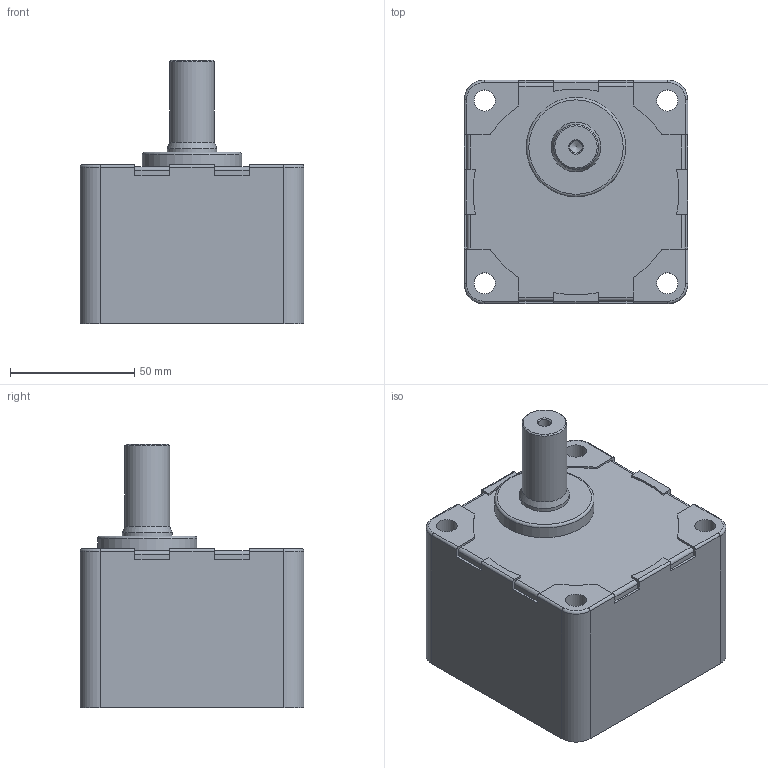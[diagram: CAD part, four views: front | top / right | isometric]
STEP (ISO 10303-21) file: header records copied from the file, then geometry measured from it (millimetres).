
FILE_DESCRIPTION(/* description */ (''),/* implementation_level */ '2;1');
FILE_NAME(/* name */ 'E:\도면작업\2016\0704) 미주향 SG 도면\3D GEAR HEAD\SG9SB120~300.stp',/* time_stamp */ '2016-07-22T14:05:38+09:00',/* author */ ('jy-jung'),/* organization */ (''),/* preprocessor_version */ 'ST-DEVELOPER v15.6',/* originating_system */ 'Autodesk Inventor 2015',/* authorisation */ '');
FILE_SCHEMA (('AUTOMOTIVE_DESIGN { 1 0 10303 214 3 1 1 }'));
Length unit declared in the file: millimetre
Products named in the file (1): SG9SB120~300
Bounding box: 90 x 90 x 106 mm (x, y, z)
Volume: 496430.8 mm3; surface area: 48682 mm2
Topology: 1 solids, 1 shells, 102 faces, 273 edges, 177 vertices
Faces by surface type: plane 50, cylinder 41, cone 6, torus 5
Full cylindrical faces by diameter (mm): 4.917 x1, 8.5 x4, 9 x1, 18 x1, 20 x1, 40 x1, 83 x1
Entity records: 3125 total; most frequent: DIRECTION 551, CARTESIAN_POINT 532, ORIENTED_EDGE 508, EDGE_CURVE 254, AXIS2_PLACEMENT_3D 194, VERTEX_POINT 175, LINE 163, VECTOR 163
